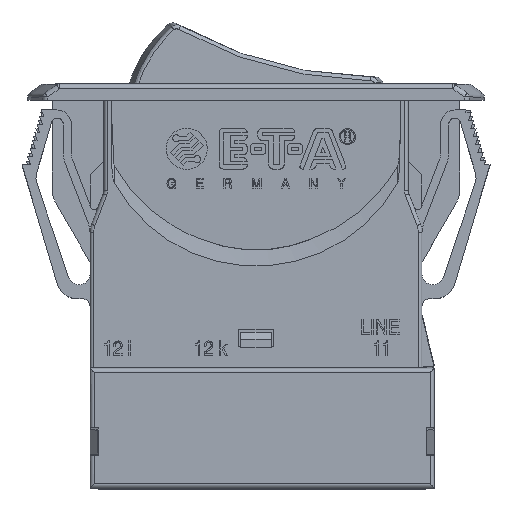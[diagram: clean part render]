
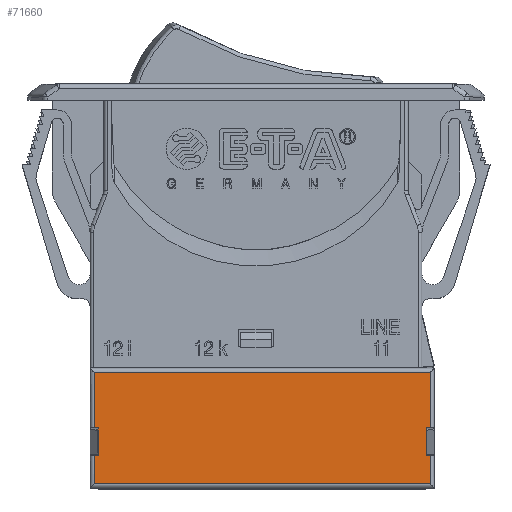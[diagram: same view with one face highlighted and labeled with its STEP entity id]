
A CAD part, top view. The second image highlights one B-rep face of the part: STEP entity #71660.
In plain terms, the highlighted planar face has unit normal (0, 0, 1).
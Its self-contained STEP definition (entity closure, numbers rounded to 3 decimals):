
#18995=CARTESIAN_POINT('',(21.5,-7.483,10.45));
#19025=CARTESIAN_POINT('',(-20.,-7.483,10.45));
#19111=CARTESIAN_POINT('',(21.5,-10.917,10.45));
#19133=CARTESIAN_POINT('',(-20.,-10.917,10.45));
#19147=DIRECTION('',(0.,-1.,0.));
#19148=VECTOR('',#19147,3.483);
#19149=CARTESIAN_POINT('',(-20.,-10.917,10.45));
#19150=LINE('',#19149,#19148);
#19151=DIRECTION('',(-1.,0.,0.));
#19152=VECTOR('',#19151,0.5);
#19153=CARTESIAN_POINT('',(-19.5,-10.917,10.45));
#19154=LINE('',#19153,#19152);
#19155=DIRECTION('',(0.,-1.,0.));
#19156=VECTOR('',#19155,3.435);
#19157=CARTESIAN_POINT('',(-19.5,-7.483,10.45));
#19158=LINE('',#19157,#19156);
#19159=DIRECTION('',(-1.,0.,0.));
#19160=VECTOR('',#19159,0.5);
#19161=CARTESIAN_POINT('',(-19.5,-7.483,10.45));
#19162=LINE('',#19161,#19160);
#19163=DIRECTION('',(0.,-1.,0.));
#19164=VECTOR('',#19163,6.883);
#19165=CARTESIAN_POINT('',(-20.,-0.6,10.45));
#19166=LINE('',#19165,#19164);
#19167=DIRECTION('',(-1.,0.,0.));
#19168=VECTOR('',#19167,41.5);
#19169=CARTESIAN_POINT('',(21.5,-0.6,10.45));
#19170=LINE('',#19169,#19168);
#19171=DIRECTION('',(0.,1.,0.));
#19172=VECTOR('',#19171,6.883);
#19173=CARTESIAN_POINT('',(21.5,-7.483,10.45));
#19174=LINE('',#19173,#19172);
#19175=DIRECTION('',(1.,0.,0.));
#19176=VECTOR('',#19175,0.5);
#19177=CARTESIAN_POINT('',(21.,-7.483,10.45));
#19178=LINE('',#19177,#19176);
#19179=DIRECTION('',(0.,-1.,0.));
#19180=VECTOR('',#19179,3.435);
#19181=CARTESIAN_POINT('',(21.,-7.483,10.45));
#19182=LINE('',#19181,#19180);
#19183=DIRECTION('',(1.,0.,0.));
#19184=VECTOR('',#19183,0.5);
#19185=CARTESIAN_POINT('',(21.,-10.917,10.45));
#19186=LINE('',#19185,#19184);
#19187=DIRECTION('',(0.,1.,0.));
#19188=VECTOR('',#19187,3.483);
#19189=CARTESIAN_POINT('',(21.5,-14.4,10.45));
#19190=LINE('',#19189,#19188);
#19191=DIRECTION('',(1.,0.,0.));
#19192=VECTOR('',#19191,41.5);
#19193=CARTESIAN_POINT('',(-20.,-14.4,10.45));
#19194=LINE('',#19193,#19192);
#34371=CARTESIAN_POINT('',(-20.,-0.6,10.45));
#46529=CARTESIAN_POINT('',(-19.5,-7.483,10.45));
#46530=CARTESIAN_POINT('',(-19.5,-10.917,10.45));
#46531=VERTEX_POINT('',#46529);
#46532=VERTEX_POINT('',#46530);
#46545=CARTESIAN_POINT('',(21.,-7.483,10.45));
#46546=CARTESIAN_POINT('',(21.,-10.917,10.45));
#46547=VERTEX_POINT('',#46545);
#46548=VERTEX_POINT('',#46546);
#46743=VERTEX_POINT('',#34371);
#46745=VERTEX_POINT('',#19133);
#46746=CARTESIAN_POINT('',(-20.,-14.4,10.45));
#46747=VERTEX_POINT('',#46746);
#46752=CARTESIAN_POINT('',(21.5,-14.4,10.45));
#46753=VERTEX_POINT('',#46752);
#46754=VERTEX_POINT('',#19111);
#46758=CARTESIAN_POINT('',(21.5,-0.6,10.45));
#46759=VERTEX_POINT('',#46758);
#46761=VERTEX_POINT('',#18995);
#46762=VERTEX_POINT('',#19025);
#71635=CARTESIAN_POINT('',(0.75,-7.5,10.45));
#71636=DIRECTION('',(0.,0.,1.));
#71637=DIRECTION('',(-1.,0.,0.));
#71638=AXIS2_PLACEMENT_3D('',#71635,#71636,#71637);
#71639=PLANE('',#71638);
#71641=ORIENTED_EDGE('',*,*,#71640,.F.);
#71642=ORIENTED_EDGE('',*,*,#71607,.F.);
#71644=ORIENTED_EDGE('',*,*,#71643,.F.);
#71645=ORIENTED_EDGE('',*,*,#71470,.T.);
#71647=ORIENTED_EDGE('',*,*,#71646,.F.);
#71649=ORIENTED_EDGE('',*,*,#71648,.F.);
#71651=ORIENTED_EDGE('',*,*,#71650,.F.);
#71652=ORIENTED_EDGE('',*,*,#71434,.F.);
#71653=ORIENTED_EDGE('',*,*,#71629,.T.);
#71654=ORIENTED_EDGE('',*,*,#71590,.T.);
#71655=ORIENTED_EDGE('',*,*,#71569,.F.);
#71657=ORIENTED_EDGE('',*,*,#71656,.F.);
#71658=EDGE_LOOP('',(#71641,#71642,#71644,#71645,#71647,#71649,#71651,#71652,
#71653,#71654,#71655,#71657));
#71659=FACE_OUTER_BOUND('',#71658,.F.);
#71434=EDGE_CURVE('',#46547,#46761,#19178,.T.);
#71470=EDGE_CURVE('',#46531,#46762,#19162,.T.);
#71569=EDGE_CURVE('',#46753,#46754,#19190,.T.);
#71590=EDGE_CURVE('',#46548,#46754,#19186,.T.);
#71607=EDGE_CURVE('',#46532,#46745,#19154,.T.);
#71629=EDGE_CURVE('',#46547,#46548,#19182,.T.);
#71640=EDGE_CURVE('',#46745,#46747,#19150,.T.);
#71643=EDGE_CURVE('',#46531,#46532,#19158,.T.);
#71646=EDGE_CURVE('',#46743,#46762,#19166,.T.);
#71648=EDGE_CURVE('',#46759,#46743,#19170,.T.);
#71650=EDGE_CURVE('',#46761,#46759,#19174,.T.);
#71656=EDGE_CURVE('',#46747,#46753,#19194,.T.);
#71660=ADVANCED_FACE('',(#71659),#71639,.T.);
